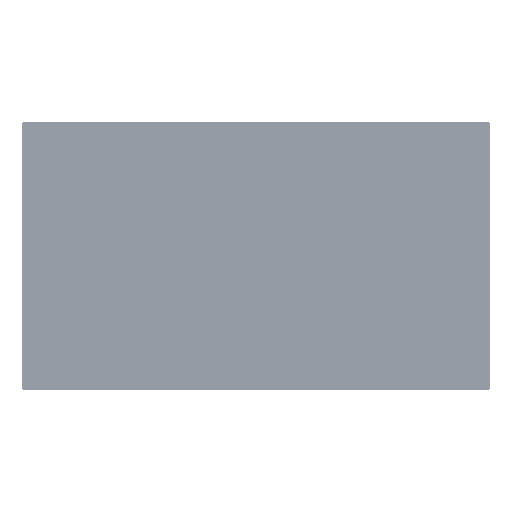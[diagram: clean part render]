
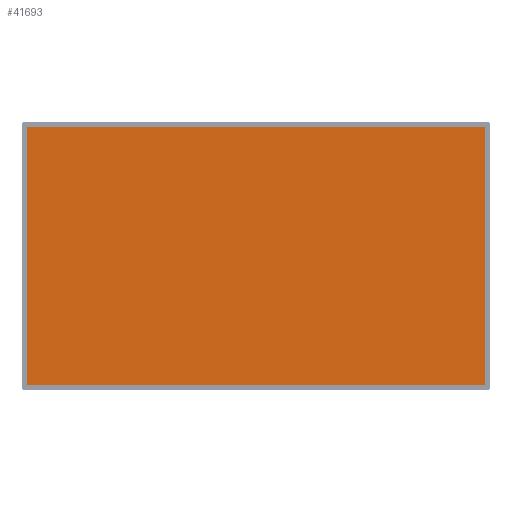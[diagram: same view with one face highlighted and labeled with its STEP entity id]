
A CAD part, top view. The second image highlights one B-rep face of the part: STEP entity #41693.
In plain terms, the highlighted planar face has unit normal (0, 0, 1).
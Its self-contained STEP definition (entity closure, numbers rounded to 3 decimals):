
#18399 = DIRECTION ( 'NONE',  ( 0., -1., 0. ) ) ;
#28315 = EDGE_CURVE ( 'NONE', #1057771, #1066370, #545116, .T. ) ;
#41693 = ADVANCED_FACE ( 'NONE', ( #1201517 ), #417910, .T. ) ;
#59946 = VERTEX_POINT ( 'NONE', #383688 ) ;
#62616 = ORIENTED_EDGE ( 'NONE', *, *, #416526, .T. ) ;
#74253 = VECTOR ( 'NONE', #96211, 1000. ) ;
#89398 = CARTESIAN_POINT ( 'NONE',  ( 552.92, -312.505, -2. ) ) ;
#96211 = DIRECTION ( 'NONE',  ( -1., 0., 0. ) ) ;
#125892 = VECTOR ( 'NONE', #18399, 1000. ) ;
#341070 = CARTESIAN_POINT ( 'NONE',  ( -552.92, -312.505, -2. ) ) ;
#351162 = EDGE_CURVE ( 'NONE', #1059073, #59946, #1189076, .T. ) ;
#383688 = CARTESIAN_POINT ( 'NONE',  ( -552.92, 313.205, -2. ) ) ;
#416526 = EDGE_CURVE ( 'NONE', #59946, #1057771, #518662, .T. ) ;
#417910 = PLANE ( 'NONE',  #628305 ) ;
#439823 = DIRECTION ( 'NONE',  ( 1., 0., 0. ) ) ;
#493852 = VECTOR ( 'NONE', #792112, 1000. ) ;
#518662 = LINE ( 'NONE', #920204, #125892 ) ;
#541657 = CARTESIAN_POINT ( 'NONE',  ( -552.92, -312.505, -2. ) ) ;
#545116 = LINE ( 'NONE', #341070, #679561 ) ;
#613176 = ORIENTED_EDGE ( 'NONE', *, *, #351162, .T. ) ;
#628305 = AXIS2_PLACEMENT_3D ( 'NONE', #1102730, #1220963, #720658 ) ;
#663960 = ORIENTED_EDGE ( 'NONE', *, *, #28315, .T. ) ;
#679561 = VECTOR ( 'NONE', #439823, 1000. ) ;
#706281 = CARTESIAN_POINT ( 'NONE',  ( 552.92, -312.505, -2. ) ) ;
#720658 = DIRECTION ( 'NONE',  ( 1., 0., 0. ) ) ;
#792112 = DIRECTION ( 'NONE',  ( 0., 1., 0. ) ) ;
#920204 = CARTESIAN_POINT ( 'NONE',  ( -552.92, 313.205, -2. ) ) ;
#963753 = EDGE_CURVE ( 'NONE', #1066370, #1059073, #996052, .T. ) ;
#967716 = CARTESIAN_POINT ( 'NONE',  ( 552.92, 313.205, -2. ) ) ;
#996052 = LINE ( 'NONE', #706281, #493852 ) ;
#1057771 = VERTEX_POINT ( 'NONE', #541657 ) ;
#1059073 = VERTEX_POINT ( 'NONE', #967716 ) ;
#1066370 = VERTEX_POINT ( 'NONE', #89398 ) ;
#1102730 = CARTESIAN_POINT ( 'NONE',  ( 0., 0., -2. ) ) ;
#1189076 = LINE ( 'NONE', #1287763, #74253 ) ;
#1196342 = ORIENTED_EDGE ( 'NONE', *, *, #963753, .T. ) ;
#1201517 = FACE_OUTER_BOUND ( 'NONE', #1208625, .T. ) ;
#1208625 = EDGE_LOOP ( 'NONE', ( #663960, #1196342, #613176, #62616 ) ) ;
#1220963 = DIRECTION ( 'NONE',  ( 0., 0., 1. ) ) ;
#1287763 = CARTESIAN_POINT ( 'NONE',  ( 552.92, 313.205, -2. ) ) ;
